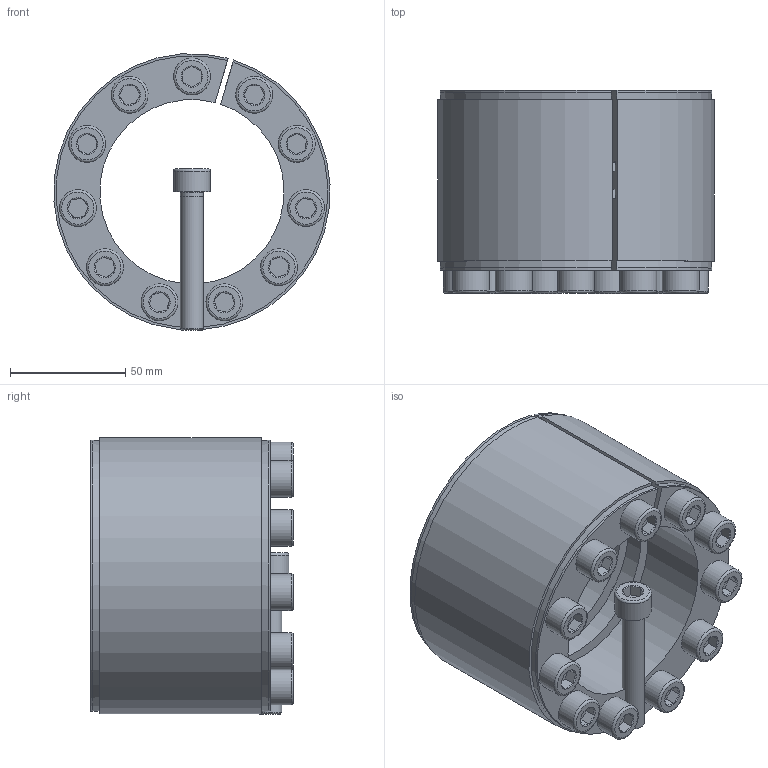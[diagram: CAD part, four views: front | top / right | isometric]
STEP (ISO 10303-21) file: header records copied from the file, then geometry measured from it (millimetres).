
FILE_DESCRIPTION( ( 'Unknown' ), '1' );
FILE_NAME( 'C:/Dokumente und Einstellungen/Sven/Desktop/homepage/cad - homepage/KBS11/KBS 11 - 80 x 120.stp', 'Unknown', ( 'Unknown' ), ( 'Unknown' ), 'XStep 1.0', 'Unknown', ' ' );
FILE_SCHEMA( ( 'automotive_design' ) );
Length unit declared in the file: millimetre
Products named in the file (3): Assem1; KBS 11 - 80 x 120; ISO EN DIN 4762 M10x60
Bounding box: 119.77 x 88 x 119.8 mm (x, y, z)
Volume: 844504 mm3; surface area: 241625 mm2
Topology: 14 solids, 14 shells, 406 faces, 866 edges, 536 vertices
Faces by surface type: plane 164, cylinder 126, cone 92, torus 24
Full cylindrical faces by diameter (mm): 9 x12, 10 x90, 16 x12
Entity records: 2646 total; most frequent: CARTESIAN_POINT 441, DIRECTION 424, ORIENTED_EDGE 310, AXIS2_PLACEMENT_3D 192, EDGE_LOOP 188, EDGE_CURVE 155, VERTEX_POINT 125, FACE_OUTER_BOUND 117
